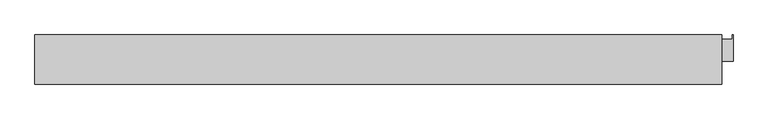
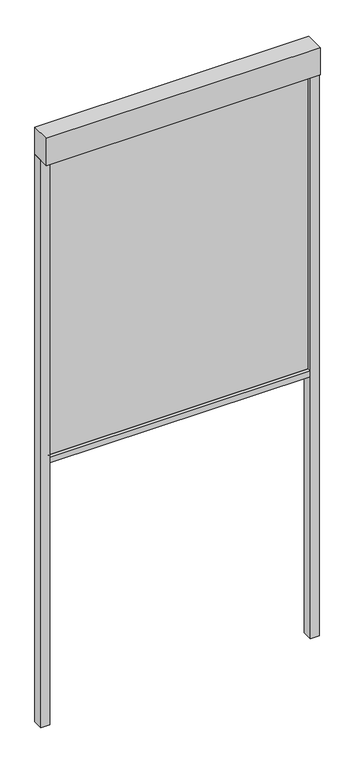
"""IFC4 building model written with IfcOpenShell, lengths in millimetres: proxy geometry, Renson_Fixscreen_Minimal_CW50_Reynaers_Start : For Reynaers curtain wall - Start element - Access downwards - Fabric close to the window."""

from ifc_helpers import new_model, si_unit, point, frame, frame_2d, origin, origin_with_axes, place, context, project, spatial, polyline, circle_curve, trimmed, segment, composite_curve, outline, extrude, source, transform, mapped, element, save


def generic_models_05ed3316(model_context):
    return source(origin(), model_context, "Body", "SweptSolid", [
        extrude(outline(polyline([(-1020.0, -803.5959909), (-1020.0, -693.5959909), (505.0, -693.5959909), (505.0, -803.5959909), (-1020.0, -803.5959909)])), frame((0.0, 0.0, 3340.0), z_axis=(0.0, 0.0, 1.0), x_axis=(1.0, 0.0, 0.0)), (0.0, 0.0, 1.0), 160.0),
        extrude(outline(polyline([(-970.0, -751.5959909), (-1020.0, -751.5959909), (-1020.0, -693.5959909), (-1017.9724485, -693.5959909), (-1017.9724485, -703.7336963), (-972.0186515, -703.7336963), (-972.0186515, -693.5959909), (-970.0, -693.5959909), (-970.0, -751.5959909)])), origin_with_axes(), (0.0, 0.0, 1.0), 3340.0),
        extrude(outline(polyline([(530.0, -751.5959909), (480.0, -751.5959909), (480.0, -693.5959909), (481.9595035, -693.5959909), (481.9595035, -703.7336963), (528.0, -703.7336963), (528.0, -693.5959909), (530.0, -693.5959909), (530.0, -751.5959909)])), origin_with_axes(), (0.0, 0.0, 1.0), 3340.0),
        extrude(outline(composite_curve([segment(polyline([(-708.5959909, 1540.0), (-749.0958874, 1540.0), (-749.0958874, 1574.1156826), (-731.9717779, 1575.0000198)]), True, "CONTINUOUS"), segment(trimmed(circle_curve(frame_2d((-731.9459909, 1574.5006852)), 0.5), [point((-731.9717779, 1575.0000198))], [point((-731.4459909, 1574.5006852))], False, "CARTESIAN"), True, "CONTINUOUS"), segment(polyline([(-731.4459909, 1574.5006852), (-731.4459909, 1573.5367989), (-732.7111292, 1573.5367989), (-731.9708257, 1569.0119223)]), True, "CONTINUOUS"), segment(trimmed(circle_curve(frame_2d((-771.4459909, 1562.5534911)), 40.0), [point((-731.9708257, 1569.0119223))], [point((-731.4459909, 1562.5534911))], False, "CARTESIAN"), True, "CONTINUOUS"), segment(polyline([(-731.4459909, 1562.5534911), (-731.4459909, 1554.5006852)]), True, "CONTINUOUS"), segment(trimmed(circle_curve(frame_2d((-729.4459909, 1554.5006852)), 2.0), [point((-731.4459909, 1554.5006852))], [point((-729.4459909, 1552.5006852))], True, "CARTESIAN"), True, "CONTINUOUS"), segment(polyline([(-729.4459909, 1552.5006852), (-727.7459909, 1552.5006852)]), True, "CONTINUOUS"), segment(trimmed(circle_curve(frame_2d((-727.7459909, 1554.5006852)), 2.0), [point((-727.7459909, 1552.5006852))], [point((-725.7459909, 1554.5006852))], True, "CARTESIAN"), True, "CONTINUOUS"), segment(polyline([(-725.7459909, 1554.5006852), (-725.7459909, 1562.5534911)]), True, "CONTINUOUS"), segment(trimmed(circle_curve(frame_2d((-685.7459909, 1562.5534911)), 40.0), [point((-725.7459909, 1562.5534911))], [point((-725.221156, 1569.0119223))], False, "CARTESIAN"), True, "CONTINUOUS"), segment(polyline([(-725.221156, 1569.0119223), (-724.4808525, 1573.5367989), (-725.7459909, 1573.5367989), (-725.7459909, 1574.5006852)]), True, "CONTINUOUS"), segment(trimmed(circle_curve(frame_2d((-725.2459909, 1574.5006852)), 0.5), [point((-725.7459909, 1574.5006852))], [point((-725.2194276, 1574.9999791))], False, "CARTESIAN"), True, "CONTINUOUS"), segment(polyline([(-725.2194276, 1574.9999791), (-708.5959909, 1574.1156826), (-708.5959909, 1540.0)]), True, "CONTINUOUS")], self_intersect=False)), frame((-970.0, 0.0, 0.0), z_axis=(1.0, 0.0, 0.0), x_axis=(0.0, 1.0, 0.0)), (0.0, 0.0, 1.0), 1450.0),
        extrude(outline(polyline([(-970.0, -730.0959909), (-970.0, -727.0959909), (480.0, -727.0959909), (480.0, -730.0959909), (-970.0, -730.0959909)])), frame((0.0, 0.0, 1552.5006852), z_axis=(0.0, 0.0, 1.0), x_axis=(1.0, 0.0, 0.0)), (0.0, 0.0, 1.0), 1787.4993148),
    ])


if __name__ == "__main__":
    model = new_model("IFC4")
    model_context = context("Model", 3, world=origin())
    ifc_project = project(units=[si_unit("LENGTHUNIT", "METRE", prefix="MILLI")], contexts=[model_context])
    site = spatial("IfcSite", under=ifc_project)
    building = spatial("IfcBuilding", under=site)
    placement = place(None, origin())
    generic_models_shape = generic_models_05ed3316(model_context)
    element("IfcBuildingElementProxy", 1, Name="Renson_Fixscreen_Minimal_CW50_Reynaers_Start : For Reynaers curtain wall - Start element - Access downwards - Fabric close to the window", ObjectType="Renson_Fixscreen_Minimal_CW50_Reynaers_Start : For Reynaers curtain wall - Start element - Access downwards - Fabric close to the window", at=placement, inside=building, context=model_context, shape_type="MappedRepresentation", body=[
        mapped(generic_models_shape, transform((0.0, 0.0, 0.0), x_axis=(1.0, 0.0, 0.0), y_axis=(0.0, 1.0, 0.0), z_axis=(0.0, 0.0, 1.0))),
    ])
    save(model, "model.ifc")
